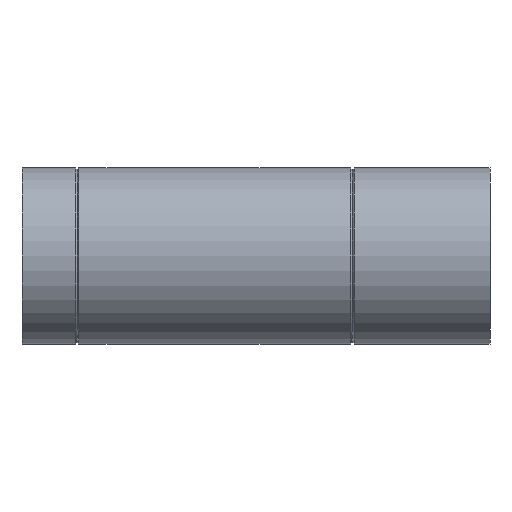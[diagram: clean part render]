
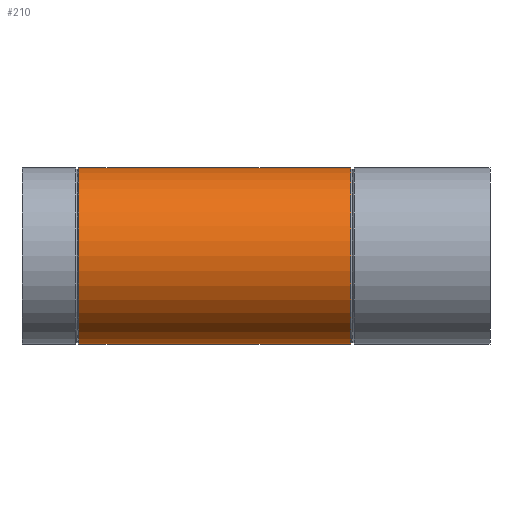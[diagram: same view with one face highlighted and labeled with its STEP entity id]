
A CAD part, left-side view. The second image highlights one B-rep face of the part: STEP entity #210.
In plain terms, the highlighted cylindrical face has radius 16 mm (diameter 32 mm), a full revolution.
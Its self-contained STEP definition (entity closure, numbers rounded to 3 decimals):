
#15=ELLIPSE($,#234,22.337,16.);
#16=ELLIPSE($,#235,22.93,16.);
#19=CYLINDRICAL_SURFACE($,#232,16.);
#28=FACE_BOUND($,#65,.T.);
#29=FACE_BOUND($,#66,.T.);
#50=FACE_OUTER_BOUND($,#64,.T.);
#64=EDGE_LOOP($,(#151));
#65=EDGE_LOOP($,(#152,#153));
#66=EDGE_LOOP($,(#154));
#96=CIRCLE($,#231,16.);
#97=CIRCLE($,#233,16.);
#111=VERTEX_POINT($,#341);
#112=VERTEX_POINT($,#344);
#113=VERTEX_POINT($,#346);
#114=VERTEX_POINT($,#347);
#130=EDGE_CURVE($,#111,#111,#96,.T.);
#131=EDGE_CURVE($,#112,#112,#97,.T.);
#132=EDGE_CURVE($,#113,#114,#15,.T.);
#133=EDGE_CURVE($,#114,#113,#16,.T.);
#151=ORIENTED_EDGE($,*,*,#131,.T.);
#152=ORIENTED_EDGE($,*,*,#132,.T.);
#153=ORIENTED_EDGE($,*,*,#133,.T.);
#154=ORIENTED_EDGE($,*,*,#130,.T.);
#210=ADVANCED_FACE($,(#50,#28,#29),#19,.T.);
#231=AXIS2_PLACEMENT_3D($,#342,#272,#273);
#232=AXIS2_PLACEMENT_3D($,#343,#274,#275);
#233=AXIS2_PLACEMENT_3D($,#345,#276,#277);
#234=AXIS2_PLACEMENT_3D($,#348,#278,#279);
#235=AXIS2_PLACEMENT_3D($,#349,#280,#281);
#272=DIRECTION('center_axis',(0.,-1.,0.));
#273=DIRECTION('ref_axis',(1.,0.,0.));
#274=DIRECTION('center_axis',(0.,1.,0.));
#275=DIRECTION('ref_axis',(1.,0.,0.));
#276=DIRECTION('center_axis',(0.,1.,0.));
#277=DIRECTION('ref_axis',(1.,0.,0.));
#278=DIRECTION('center_axis',(-0.698,-0.716,0.));
#279=DIRECTION('ref_axis',(0.716,-0.698,0.));
#280=DIRECTION('center_axis',(-0.716,0.698,0.));
#281=DIRECTION('ref_axis',(-0.698,-0.716,0.));
#341=CARTESIAN_POINT('',(16.,74.68,0.));
#342=CARTESIAN_POINT('Origin',(0.,74.68,0.));
#343=CARTESIAN_POINT('Origin',(0.,0.,0.));
#344=CARTESIAN_POINT('',(-16.,25.32,0.));
#345=CARTESIAN_POINT('Origin',(0.,25.32,0.));
#346=CARTESIAN_POINT('',(0.,50.,-16.));
#347=CARTESIAN_POINT('',(0.,50.,16.));
#348=CARTESIAN_POINT('Origin',(0.,50.,0.));
#349=CARTESIAN_POINT('Origin',(0.,50.,0.));
